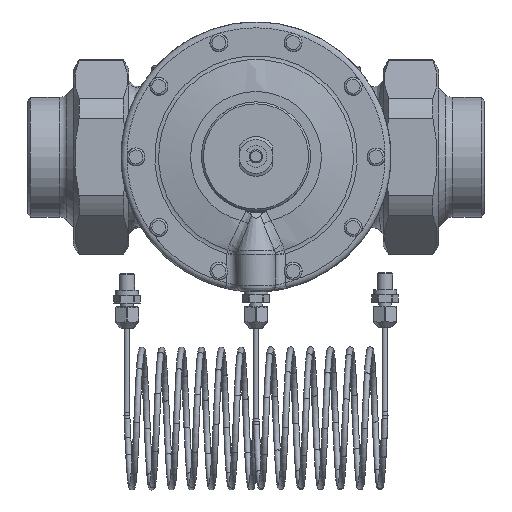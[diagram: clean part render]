
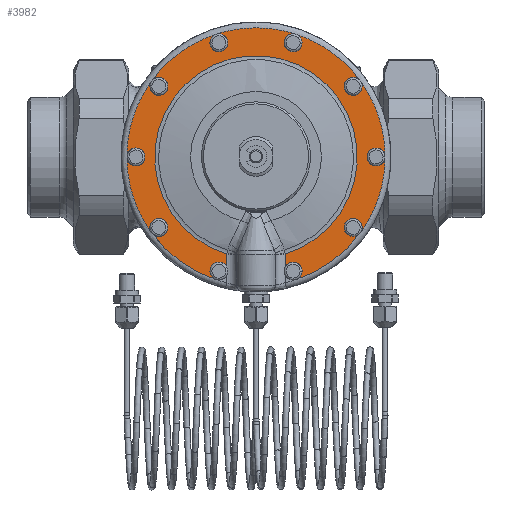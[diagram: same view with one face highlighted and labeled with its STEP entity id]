
A CAD part, top view. The second image highlights one B-rep face of the part: STEP entity #3982.
In plain terms, the highlighted planar face has unit normal (0, 0, 1).
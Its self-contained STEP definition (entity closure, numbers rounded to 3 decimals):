
#2275=CIRCLE('',#17967,65.);
#2276=CIRCLE('',#17968,4.5);
#2277=CIRCLE('',#17969,65.);
#2278=CIRCLE('',#17970,4.5);
#2279=CIRCLE('',#17971,65.);
#2280=CIRCLE('',#17972,4.5);
#2281=CIRCLE('',#17973,65.);
#2282=CIRCLE('',#17974,4.5);
#2283=CIRCLE('',#17975,65.);
#2284=CIRCLE('',#17976,4.5);
#2285=CIRCLE('',#17977,65.);
#2286=CIRCLE('',#17978,4.5);
#2287=CIRCLE('',#17979,51.024);
#2288=CIRCLE('',#17980,4.5);
#2289=CIRCLE('',#17981,65.);
#2290=CIRCLE('',#17982,4.5);
#2291=CIRCLE('',#17983,65.);
#2292=CIRCLE('',#17984,4.5);
#2293=CIRCLE('',#17985,65.);
#2294=CIRCLE('',#17986,4.5);
#3382=B_SPLINE_CURVE_WITH_KNOTS('',3,(#26164,#26165,#26166,#26167),.UNSPECIFIED.,
 .F.,.F.,(4,4),(0.,1.),.UNSPECIFIED.);
#3383=B_SPLINE_CURVE_WITH_KNOTS('',3,(#26171,#26172,#26173,#26174),.UNSPECIFIED.,
 .F.,.F.,(4,4),(0.,1.),.UNSPECIFIED.);
#3982=ADVANCED_FACE('',(#5522),#5163,.T.);
#5163=PLANE('',#17987);
#5522=FACE_OUTER_BOUND('',#6290,.T.);
#6290=EDGE_LOOP('',(#8284,#8285,#8286,#8287,#8288,#8289,#8290,#8291,#8292,
#8293,#8294,#8295,#8296,#8297,#8298,#8299,#8300,#8301,#8302,#8303,#8304,
#8305,#8306,#8307));
#8284=ORIENTED_EDGE('',*,*,#14422,.T.);
#8285=ORIENTED_EDGE('',*,*,#14423,.F.);
#8286=ORIENTED_EDGE('',*,*,#14424,.T.);
#8287=ORIENTED_EDGE('',*,*,#14425,.F.);
#8288=ORIENTED_EDGE('',*,*,#14426,.T.);
#8289=ORIENTED_EDGE('',*,*,#14427,.F.);
#8290=ORIENTED_EDGE('',*,*,#14428,.T.);
#8291=ORIENTED_EDGE('',*,*,#14429,.F.);
#8292=ORIENTED_EDGE('',*,*,#14430,.T.);
#8293=ORIENTED_EDGE('',*,*,#14431,.F.);
#8294=ORIENTED_EDGE('',*,*,#14432,.T.);
#8295=ORIENTED_EDGE('',*,*,#14433,.F.);
#8296=ORIENTED_EDGE('',*,*,#14434,.T.);
#8297=ORIENTED_EDGE('',*,*,#14435,.T.);
#8298=ORIENTED_EDGE('',*,*,#14436,.T.);
#8299=ORIENTED_EDGE('',*,*,#14437,.T.);
#8300=ORIENTED_EDGE('',*,*,#14438,.T.);
#8301=ORIENTED_EDGE('',*,*,#14439,.F.);
#8302=ORIENTED_EDGE('',*,*,#14440,.T.);
#8303=ORIENTED_EDGE('',*,*,#14441,.F.);
#8304=ORIENTED_EDGE('',*,*,#14442,.T.);
#8305=ORIENTED_EDGE('',*,*,#14443,.F.);
#8306=ORIENTED_EDGE('',*,*,#14444,.T.);
#8307=ORIENTED_EDGE('',*,*,#14445,.F.);
#12734=VERTEX_POINT('',#26143);
#12735=VERTEX_POINT('',#26144);
#12736=VERTEX_POINT('',#26147);
#12737=VERTEX_POINT('',#26150);
#12738=VERTEX_POINT('',#26153);
#12739=VERTEX_POINT('',#26156);
#12740=VERTEX_POINT('',#26159);
#12741=VERTEX_POINT('',#26161);
#12742=VERTEX_POINT('',#26163);
#12743=VERTEX_POINT('',#26168);
#12744=VERTEX_POINT('',#26170);
#12745=VERTEX_POINT('',#26175);
#12746=VERTEX_POINT('',#26177);
#12747=VERTEX_POINT('',#26179);
#12748=VERTEX_POINT('',#26181);
#12749=VERTEX_POINT('',#26184);
#14422=EDGE_CURVE('',#12734,#12735,#2275,.T.);
#14423=EDGE_CURVE('',#12735,#12735,#2276,.T.);
#14424=EDGE_CURVE('',#12735,#12736,#2277,.T.);
#14425=EDGE_CURVE('',#12736,#12736,#2278,.T.);
#14426=EDGE_CURVE('',#12736,#12737,#2279,.T.);
#14427=EDGE_CURVE('',#12737,#12737,#2280,.T.);
#14428=EDGE_CURVE('',#12737,#12738,#2281,.T.);
#14429=EDGE_CURVE('',#12738,#12738,#2282,.T.);
#14430=EDGE_CURVE('',#12738,#12739,#2283,.T.);
#14431=EDGE_CURVE('',#12739,#12739,#2284,.T.);
#14432=EDGE_CURVE('',#12739,#12740,#2285,.T.);
#14433=EDGE_CURVE('',#12741,#12740,#2286,.T.);
#14434=EDGE_CURVE('',#12741,#12742,#16621,.T.);
#14435=EDGE_CURVE('',#12742,#12743,#3382,.T.);
#14436=EDGE_CURVE('',#12743,#12744,#2287,.T.);
#14437=EDGE_CURVE('',#12744,#12745,#3383,.T.);
#14438=EDGE_CURVE('',#12745,#12746,#16622,.T.);
#14439=EDGE_CURVE('',#12747,#12746,#2288,.T.);
#14440=EDGE_CURVE('',#12747,#12748,#2289,.T.);
#14441=EDGE_CURVE('',#12748,#12748,#2290,.T.);
#14442=EDGE_CURVE('',#12748,#12749,#2291,.T.);
#14443=EDGE_CURVE('',#12749,#12749,#2292,.T.);
#14444=EDGE_CURVE('',#12749,#12734,#2293,.T.);
#14445=EDGE_CURVE('',#12734,#12734,#2294,.T.);
#16621=LINE('',#26162,#17227);
#16622=LINE('',#26176,#17228);
#17227=VECTOR('',#20475,1.);
#17228=VECTOR('',#20478,1.);
#17967=AXIS2_PLACEMENT_3D('',#26142,#20451,#20452);
#17968=AXIS2_PLACEMENT_3D('',#26145,#20453,#20454);
#17969=AXIS2_PLACEMENT_3D('',#26146,#20455,#20456);
#17970=AXIS2_PLACEMENT_3D('',#26148,#20457,#20458);
#17971=AXIS2_PLACEMENT_3D('',#26149,#20459,#20460);
#17972=AXIS2_PLACEMENT_3D('',#26151,#20461,#20462);
#17973=AXIS2_PLACEMENT_3D('',#26152,#20463,#20464);
#17974=AXIS2_PLACEMENT_3D('',#26154,#20465,#20466);
#17975=AXIS2_PLACEMENT_3D('',#26155,#20467,#20468);
#17976=AXIS2_PLACEMENT_3D('',#26157,#20469,#20470);
#17977=AXIS2_PLACEMENT_3D('',#26158,#20471,#20472);
#17978=AXIS2_PLACEMENT_3D('',#26160,#20473,#20474);
#17979=AXIS2_PLACEMENT_3D('',#26169,#20476,#20477);
#17980=AXIS2_PLACEMENT_3D('',#26178,#20479,#20480);
#17981=AXIS2_PLACEMENT_3D('',#26180,#20481,#20482);
#17982=AXIS2_PLACEMENT_3D('',#26182,#20483,#20484);
#17983=AXIS2_PLACEMENT_3D('',#26183,#20485,#20486);
#17984=AXIS2_PLACEMENT_3D('',#26185,#20487,#20488);
#17985=AXIS2_PLACEMENT_3D('',#26186,#20489,#20490);
#17986=AXIS2_PLACEMENT_3D('',#26187,#20491,#20492);
#17987=AXIS2_PLACEMENT_3D('',#26188,#20493,#20494);
#20451=DIRECTION('',(0.,0.,1.));
#20452=DIRECTION('',(1.,0.,0.));
#20453=DIRECTION('',(0.,0.,1.));
#20454=DIRECTION('',(0.588,0.809,0.));
#20455=DIRECTION('',(0.,0.,1.));
#20456=DIRECTION('',(1.,0.,0.));
#20457=DIRECTION('',(0.,0.,1.));
#20458=DIRECTION('',(0.,1.,0.));
#20459=DIRECTION('',(0.,0.,1.));
#20460=DIRECTION('',(1.,0.,0.));
#20461=DIRECTION('',(0.,0.,1.));
#20462=DIRECTION('',(-0.588,0.809,0.));
#20463=DIRECTION('',(0.,0.,1.));
#20464=DIRECTION('',(1.,0.,0.));
#20465=DIRECTION('',(0.,0.,1.));
#20466=DIRECTION('',(-0.951,0.309,0.));
#20467=DIRECTION('',(0.,0.,1.));
#20468=DIRECTION('',(1.,0.,0.));
#20469=DIRECTION('',(0.,0.,1.));
#20470=DIRECTION('',(-0.951,-0.309,0.));
#20471=DIRECTION('',(0.,0.,1.));
#20472=DIRECTION('',(1.,0.,0.));
#20473=DIRECTION('',(0.,0.,1.));
#20474=DIRECTION('',(-0.588,-0.809,0.));
#20475=DIRECTION('',(0.,1.,0.));
#20476=DIRECTION('',(0.,0.,-1.));
#20477=DIRECTION('',(1.,0.,0.));
#20478=DIRECTION('',(0.,-1.,0.));
#20479=DIRECTION('',(0.,0.,1.));
#20480=DIRECTION('',(0.,-1.,0.));
#20481=DIRECTION('',(0.,0.,1.));
#20482=DIRECTION('',(1.,0.,0.));
#20483=DIRECTION('',(0.,0.,1.));
#20484=DIRECTION('',(0.588,-0.809,0.));
#20485=DIRECTION('',(0.,0.,1.));
#20486=DIRECTION('',(1.,0.,0.));
#20487=DIRECTION('',(0.,0.,1.));
#20488=DIRECTION('',(0.951,-0.309,0.));
#20489=DIRECTION('',(0.,0.,1.));
#20490=DIRECTION('',(1.,0.,0.));
#20491=DIRECTION('',(0.,0.,1.));
#20492=DIRECTION('',(0.951,0.309,0.));
#20493=DIRECTION('',(0.,0.,1.));
#20494=DIRECTION('',(1.,0.,0.));
#26142=CARTESIAN_POINT('',(0.,0.,97.));
#26143=CARTESIAN_POINT('',(52.586,38.206,97.));
#26144=CARTESIAN_POINT('',(20.086,61.819,97.));
#26145=CARTESIAN_POINT('',(18.696,57.539,97.));
#26146=CARTESIAN_POINT('',(0.,0.,97.));
#26147=CARTESIAN_POINT('',(-20.086,61.819,97.));
#26148=CARTESIAN_POINT('',(-18.696,57.539,97.));
#26149=CARTESIAN_POINT('',(0.,0.,97.));
#26150=CARTESIAN_POINT('',(-52.586,38.206,97.));
#26151=CARTESIAN_POINT('',(-48.946,35.561,97.));
#26152=CARTESIAN_POINT('',(0.,0.,97.));
#26153=CARTESIAN_POINT('',(-65.,0.,97.));
#26154=CARTESIAN_POINT('',(-60.5,0.,97.));
#26155=CARTESIAN_POINT('',(0.,0.,97.));
#26156=CARTESIAN_POINT('',(-52.586,-38.206,97.));
#26157=CARTESIAN_POINT('',(-48.946,-35.561,97.));
#26158=CARTESIAN_POINT('',(0.,0.,97.));
#26159=CARTESIAN_POINT('',(-20.086,-61.819,97.));
#26160=CARTESIAN_POINT('',(-18.696,-57.539,97.));
#26161=CARTESIAN_POINT('',(-14.697,-55.475,97.));
#26162=CARTESIAN_POINT('',(-14.697,-50.075,97.));
#26163=CARTESIAN_POINT('',(-14.697,-49.039,97.));
#26164=CARTESIAN_POINT('',(-14.697,-49.039,97.));
#26165=CARTESIAN_POINT('',(-14.697,-48.98,97.));
#26166=CARTESIAN_POINT('',(-14.696,-48.921,97.));
#26167=CARTESIAN_POINT('',(-14.695,-48.862,97.));
#26168=CARTESIAN_POINT('',(-14.695,-48.862,97.));
#26169=CARTESIAN_POINT('',(0.,0.,97.));
#26170=CARTESIAN_POINT('',(14.695,-48.862,97.));
#26171=CARTESIAN_POINT('',(14.695,-48.862,97.));
#26172=CARTESIAN_POINT('',(14.696,-48.921,97.));
#26173=CARTESIAN_POINT('',(14.697,-48.98,97.));
#26174=CARTESIAN_POINT('',(14.697,-49.039,97.));
#26175=CARTESIAN_POINT('',(14.697,-49.039,97.));
#26176=CARTESIAN_POINT('',(14.697,-67.29,97.));
#26177=CARTESIAN_POINT('',(14.697,-55.475,97.));
#26178=CARTESIAN_POINT('',(18.696,-57.539,97.));
#26179=CARTESIAN_POINT('',(20.086,-61.819,97.));
#26180=CARTESIAN_POINT('',(0.,0.,97.));
#26181=CARTESIAN_POINT('',(52.586,-38.206,97.));
#26182=CARTESIAN_POINT('',(48.946,-35.561,97.));
#26183=CARTESIAN_POINT('',(0.,0.,97.));
#26184=CARTESIAN_POINT('',(65.,0.,97.));
#26185=CARTESIAN_POINT('',(60.5,0.,97.));
#26186=CARTESIAN_POINT('',(0.,0.,97.));
#26187=CARTESIAN_POINT('',(48.946,35.561,97.));
#26188=CARTESIAN_POINT('',(0.,-68.,97.));
